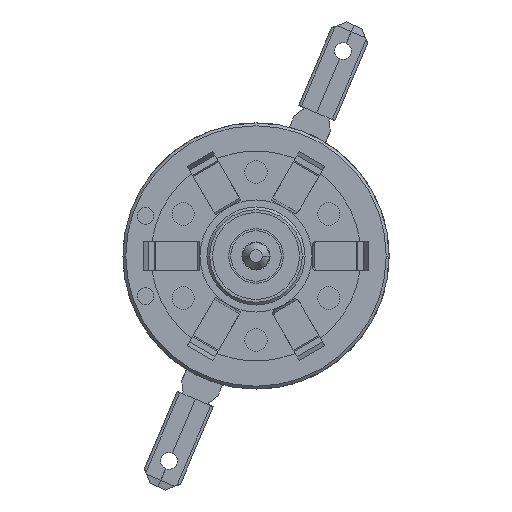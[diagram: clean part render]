
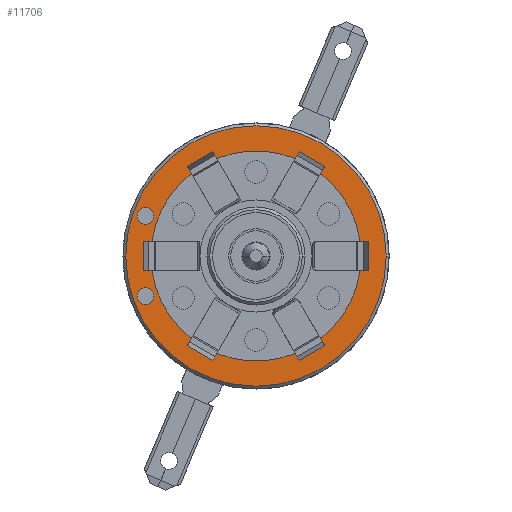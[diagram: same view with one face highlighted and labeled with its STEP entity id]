
A CAD part, left-side view. The second image highlights one B-rep face of the part: STEP entity #11706.
In plain terms, the highlighted planar face has unit normal (-1, 0, 0).
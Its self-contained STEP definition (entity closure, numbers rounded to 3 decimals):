
#2969=CARTESIAN_POINT('',(-1.4,0.,0.));
#2970=DIRECTION('',(-1.,0.,0.));
#2971=DIRECTION('',(0.,-1.,0.));
#2972=AXIS2_PLACEMENT_3D('',#2969,#2970,#2971);
#2977=CARTESIAN_POINT('',(-1.4,0.,0.));
#2978=DIRECTION('',(-1.,0.,0.));
#2979=DIRECTION('',(0.,1.,0.));
#2980=AXIS2_PLACEMENT_3D('',#2977,#2978,#2979);
#2985=CARTESIAN_POINT('',(-1.4,7.89,-2.87));
#2986=DIRECTION('',(1.,0.,0.));
#2987=DIRECTION('',(0.,1.,0.));
#2988=AXIS2_PLACEMENT_3D('',#2985,#2986,#2987);
#2993=CARTESIAN_POINT('',(-1.4,7.89,-2.87));
#2994=DIRECTION('',(1.,0.,0.));
#2995=DIRECTION('',(0.,-1.,0.));
#2996=AXIS2_PLACEMENT_3D('',#2993,#2994,#2995);
#3001=CARTESIAN_POINT('',(-1.4,7.89,2.87));
#3002=DIRECTION('',(1.,0.,0.));
#3003=DIRECTION('',(0.,1.,0.));
#3004=AXIS2_PLACEMENT_3D('',#3001,#3002,#3003);
#3009=CARTESIAN_POINT('',(-1.4,7.89,2.87));
#3010=DIRECTION('',(1.,0.,0.));
#3011=DIRECTION('',(0.,-1.,0.));
#3012=AXIS2_PLACEMENT_3D('',#3009,#3010,#3011);
#3017=DIRECTION('',(0.,-0.5,0.866));
#3018=VECTOR('',#3017,0.574);
#3019=CARTESIAN_POINT('',(-1.4,-4.622,5.906));
#3020=LINE('',#3019,#3018);
#3024=DIRECTION('',(0.,0.866,0.5));
#3025=VECTOR('',#3024,2.1);
#3026=CARTESIAN_POINT('',(-1.4,-4.909,6.403));
#3027=LINE('',#3026,#3025);
#3031=DIRECTION('',(0.,-0.5,0.866));
#3032=VECTOR('',#3031,0.574);
#3033=CARTESIAN_POINT('',(-1.4,-2.804,6.956));
#3034=LINE('',#3033,#3032);
#3038=DIRECTION('',(0.,0.5,0.866));
#3039=VECTOR('',#3038,0.574);
#3040=CARTESIAN_POINT('',(-1.4,2.804,6.956));
#3041=LINE('',#3040,#3039);
#3045=DIRECTION('',(0.,0.866,-0.5));
#3046=VECTOR('',#3045,2.1);
#3047=CARTESIAN_POINT('',(-1.4,3.091,7.453));
#3048=LINE('',#3047,#3046);
#3052=DIRECTION('',(0.,0.5,0.866));
#3053=VECTOR('',#3052,0.574);
#3054=CARTESIAN_POINT('',(-1.4,4.622,5.906));
#3055=LINE('',#3054,#3053);
#3059=DIRECTION('',(0.,1.,0.));
#3060=VECTOR('',#3059,0.574);
#3061=CARTESIAN_POINT('',(-1.4,7.426,1.05));
#3062=LINE('',#3061,#3060);
#3066=DIRECTION('',(0.,0.,-1.));
#3067=VECTOR('',#3066,2.1);
#3068=CARTESIAN_POINT('',(-1.4,8.,1.05));
#3069=LINE('',#3068,#3067);
#3073=DIRECTION('',(0.,1.,0.));
#3074=VECTOR('',#3073,0.574);
#3075=CARTESIAN_POINT('',(-1.4,7.426,-1.05));
#3076=LINE('',#3075,#3074);
#3080=DIRECTION('',(0.,-0.5,0.866));
#3081=VECTOR('',#3080,0.574);
#3082=CARTESIAN_POINT('',(-1.4,4.909,-6.403));
#3083=LINE('',#3082,#3081);
#3087=DIRECTION('',(0.,-0.866,-0.5));
#3088=VECTOR('',#3087,2.1);
#3089=CARTESIAN_POINT('',(-1.4,4.909,-6.403));
#3090=LINE('',#3089,#3088);
#3094=DIRECTION('',(0.,-0.5,0.866));
#3095=VECTOR('',#3094,0.574);
#3096=CARTESIAN_POINT('',(-1.4,3.091,-7.453));
#3097=LINE('',#3096,#3095);
#3101=DIRECTION('',(0.,0.5,0.866));
#3102=VECTOR('',#3101,0.574);
#3103=CARTESIAN_POINT('',(-1.4,-3.091,-7.453));
#3104=LINE('',#3103,#3102);
#3108=DIRECTION('',(0.,-0.866,0.5));
#3109=VECTOR('',#3108,2.1);
#3110=CARTESIAN_POINT('',(-1.4,-3.091,-7.453));
#3111=LINE('',#3110,#3109);
#3115=DIRECTION('',(0.,0.5,0.866));
#3116=VECTOR('',#3115,0.574);
#3117=CARTESIAN_POINT('',(-1.4,-4.909,-6.403));
#3118=LINE('',#3117,#3116);
#3122=DIRECTION('',(0.,1.,0.));
#3123=VECTOR('',#3122,0.574);
#3124=CARTESIAN_POINT('',(-1.4,-8.,-1.05));
#3125=LINE('',#3124,#3123);
#3129=DIRECTION('',(0.,0.,1.));
#3130=VECTOR('',#3129,2.1);
#3131=CARTESIAN_POINT('',(-1.4,-8.,-1.05));
#3132=LINE('',#3131,#3130);
#3136=DIRECTION('',(0.,1.,0.));
#3137=VECTOR('',#3136,0.574);
#3138=CARTESIAN_POINT('',(-1.4,-8.,1.05));
#3139=LINE('',#3138,#3137);
#3597=CARTESIAN_POINT('',(-1.4,0.,0.));
#3598=DIRECTION('',(1.,0.,0.));
#3599=DIRECTION('',(0.,-0.99,-0.14));
#3600=AXIS2_PLACEMENT_3D('',#3597,#3598,#3599);
#3849=CARTESIAN_POINT('',(-1.4,0.,0.));
#3850=DIRECTION('',(1.,0.,0.));
#3851=DIRECTION('',(0.,-0.374,-0.927));
#3852=AXIS2_PLACEMENT_3D('',#3849,#3850,#3851);
#4075=CARTESIAN_POINT('',(-1.4,0.,0.));
#4076=DIRECTION('',(1.,0.,0.));
#4077=DIRECTION('',(0.,0.616,-0.787));
#4078=AXIS2_PLACEMENT_3D('',#4075,#4076,#4077);
#4301=CARTESIAN_POINT('',(-1.4,0.,0.));
#4302=DIRECTION('',(1.,0.,0.));
#4303=DIRECTION('',(0.,0.99,0.14));
#4304=AXIS2_PLACEMENT_3D('',#4301,#4302,#4303);
#4527=CARTESIAN_POINT('',(-1.4,0.,0.));
#4528=DIRECTION('',(1.,0.,0.));
#4529=DIRECTION('',(0.,0.374,0.927));
#4530=AXIS2_PLACEMENT_3D('',#4527,#4528,#4529);
#4715=CARTESIAN_POINT('',(-1.4,0.,0.));
#4716=DIRECTION('',(1.,0.,0.));
#4717=DIRECTION('',(0.,-0.616,0.787));
#4718=AXIS2_PLACEMENT_3D('',#4715,#4716,#4717);
#9086=CARTESIAN_POINT('',(-1.4,-9.3,0.));
#9087=CARTESIAN_POINT('',(-1.4,9.3,0.));
#9088=VERTEX_POINT('',#9086);
#9089=VERTEX_POINT('',#9087);
#9102=CARTESIAN_POINT('',(-1.4,8.49,-2.87));
#9103=CARTESIAN_POINT('',(-1.4,7.29,-2.87));
#9104=VERTEX_POINT('',#9102);
#9105=VERTEX_POINT('',#9103);
#9106=CARTESIAN_POINT('',(-1.4,-8.,-1.05));
#9107=CARTESIAN_POINT('',(-1.4,-7.426,-1.05));
#9108=VERTEX_POINT('',#9106);
#9109=VERTEX_POINT('',#9107);
#9110=CARTESIAN_POINT('',(-1.4,-8.,1.05));
#9111=CARTESIAN_POINT('',(-1.4,-7.426,1.05));
#9112=VERTEX_POINT('',#9110);
#9113=VERTEX_POINT('',#9111);
#9198=CARTESIAN_POINT('',(-1.4,-3.091,-7.453));
#9199=CARTESIAN_POINT('',(-1.4,-2.804,-6.956));
#9200=VERTEX_POINT('',#9198);
#9201=VERTEX_POINT('',#9199);
#9202=CARTESIAN_POINT('',(-1.4,-4.909,-6.403));
#9203=CARTESIAN_POINT('',(-1.4,-4.622,-5.906));
#9204=VERTEX_POINT('',#9202);
#9205=VERTEX_POINT('',#9203);
#9214=CARTESIAN_POINT('',(-1.4,4.909,-6.403));
#9215=CARTESIAN_POINT('',(-1.4,4.622,-5.906));
#9216=VERTEX_POINT('',#9214);
#9217=VERTEX_POINT('',#9215);
#9218=CARTESIAN_POINT('',(-1.4,3.091,-7.453));
#9219=CARTESIAN_POINT('',(-1.4,2.804,-6.956));
#9220=VERTEX_POINT('',#9218);
#9221=VERTEX_POINT('',#9219);
#9276=CARTESIAN_POINT('',(-1.4,8.49,2.87));
#9277=CARTESIAN_POINT('',(-1.4,7.29,2.87));
#9278=VERTEX_POINT('',#9276);
#9279=VERTEX_POINT('',#9277);
#9360=CARTESIAN_POINT('',(-1.4,7.426,1.05));
#9361=CARTESIAN_POINT('',(-1.4,8.,1.05));
#9362=VERTEX_POINT('',#9360);
#9363=VERTEX_POINT('',#9361);
#9364=CARTESIAN_POINT('',(-1.4,7.426,-1.05));
#9365=CARTESIAN_POINT('',(-1.4,8.,-1.05));
#9366=VERTEX_POINT('',#9364);
#9367=VERTEX_POINT('',#9365);
#9388=CARTESIAN_POINT('',(-1.4,2.804,6.956));
#9389=CARTESIAN_POINT('',(-1.4,3.091,7.453));
#9390=VERTEX_POINT('',#9388);
#9391=VERTEX_POINT('',#9389);
#9392=CARTESIAN_POINT('',(-1.4,4.622,5.906));
#9393=CARTESIAN_POINT('',(-1.4,4.909,6.403));
#9394=VERTEX_POINT('',#9392);
#9395=VERTEX_POINT('',#9393);
#9412=CARTESIAN_POINT('',(-1.4,-4.622,5.906));
#9413=CARTESIAN_POINT('',(-1.4,-4.909,6.403));
#9414=VERTEX_POINT('',#9412);
#9415=VERTEX_POINT('',#9413);
#9416=CARTESIAN_POINT('',(-1.4,-2.804,6.956));
#9417=CARTESIAN_POINT('',(-1.4,-3.091,7.453));
#9418=VERTEX_POINT('',#9416);
#9419=VERTEX_POINT('',#9417);
#11636=CARTESIAN_POINT('',(-1.4,0.,0.));
#11637=DIRECTION('',(1.,0.,0.));
#11638=DIRECTION('',(0.,-1.,0.));
#11639=AXIS2_PLACEMENT_3D('',#11636,#11637,#11638);
#11640=PLANE('',#11639);
#11642=ORIENTED_EDGE('',*,*,#11641,.F.);
#11644=ORIENTED_EDGE('',*,*,#11643,.F.);
#11645=EDGE_LOOP('',(#11642,#11644));
#11646=FACE_OUTER_BOUND('',#11645,.F.);
#11648=ORIENTED_EDGE('',*,*,#11647,.F.);
#11650=ORIENTED_EDGE('',*,*,#11649,.F.);
#11651=EDGE_LOOP('',(#11648,#11650));
#11652=FACE_BOUND('',#11651,.F.);
#11654=ORIENTED_EDGE('',*,*,#11653,.F.);
#11656=ORIENTED_EDGE('',*,*,#11655,.F.);
#11657=EDGE_LOOP('',(#11654,#11656));
#11658=FACE_BOUND('',#11657,.F.);
#11660=ORIENTED_EDGE('',*,*,#11659,.T.);
#11662=ORIENTED_EDGE('',*,*,#11661,.T.);
#11664=ORIENTED_EDGE('',*,*,#11663,.F.);
#11666=ORIENTED_EDGE('',*,*,#11665,.F.);
#11668=ORIENTED_EDGE('',*,*,#11667,.T.);
#11670=ORIENTED_EDGE('',*,*,#11669,.T.);
#11672=ORIENTED_EDGE('',*,*,#11671,.F.);
#11674=ORIENTED_EDGE('',*,*,#11673,.F.);
#11676=ORIENTED_EDGE('',*,*,#11675,.T.);
#11678=ORIENTED_EDGE('',*,*,#11677,.T.);
#11680=ORIENTED_EDGE('',*,*,#11679,.F.);
#11682=ORIENTED_EDGE('',*,*,#11681,.F.);
#11684=ORIENTED_EDGE('',*,*,#11683,.F.);
#11686=ORIENTED_EDGE('',*,*,#11685,.T.);
#11688=ORIENTED_EDGE('',*,*,#11687,.T.);
#11690=ORIENTED_EDGE('',*,*,#11689,.F.);
#11692=ORIENTED_EDGE('',*,*,#11691,.F.);
#11694=ORIENTED_EDGE('',*,*,#11693,.T.);
#11696=ORIENTED_EDGE('',*,*,#11695,.T.);
#11698=ORIENTED_EDGE('',*,*,#11697,.F.);
#11699=ORIENTED_EDGE('',*,*,#11555,.F.);
#11700=ORIENTED_EDGE('',*,*,#11623,.T.);
#11701=ORIENTED_EDGE('',*,*,#11503,.T.);
#11703=ORIENTED_EDGE('',*,*,#11702,.F.);
#11704=EDGE_LOOP('',(#11660,#11662,#11664,#11666,#11668,#11670,#11672,#11674,
#11676,#11678,#11680,#11682,#11684,#11686,#11688,#11690,#11692,#11694,#11696,
#11698,#11699,#11700,#11701,#11703));
#11705=FACE_BOUND('',#11704,.F.);
#11706=ADVANCED_FACE('',(#11646,#11652,#11658,#11705),#11640,.F.);
#2973=CIRCLE('',#2972,9.3);
#2981=CIRCLE('',#2980,9.3);
#2989=CIRCLE('',#2988,0.6);
#2997=CIRCLE('',#2996,0.6);
#3005=CIRCLE('',#3004,0.6);
#3013=CIRCLE('',#3012,0.6);
#3601=CIRCLE('',#3600,7.5);
#3853=CIRCLE('',#3852,7.5);
#4079=CIRCLE('',#4078,7.5);
#4305=CIRCLE('',#4304,7.5);
#4531=CIRCLE('',#4530,7.5);
#4719=CIRCLE('',#4718,7.5);
#11503=EDGE_CURVE('',#9112,#9113,#3139,.T.);
#11555=EDGE_CURVE('',#9108,#9109,#3125,.T.);
#11623=EDGE_CURVE('',#9108,#9112,#3132,.T.);
#11641=EDGE_CURVE('',#9088,#9089,#2973,.T.);
#11643=EDGE_CURVE('',#9089,#9088,#2981,.T.);
#11647=EDGE_CURVE('',#9104,#9105,#2989,.T.);
#11649=EDGE_CURVE('',#9105,#9104,#2997,.T.);
#11653=EDGE_CURVE('',#9278,#9279,#3005,.T.);
#11655=EDGE_CURVE('',#9279,#9278,#3013,.T.);
#11659=EDGE_CURVE('',#9414,#9415,#3020,.T.);
#11661=EDGE_CURVE('',#9415,#9419,#3027,.T.);
#11663=EDGE_CURVE('',#9418,#9419,#3034,.T.);
#11665=EDGE_CURVE('',#9390,#9418,#4531,.T.);
#11667=EDGE_CURVE('',#9390,#9391,#3041,.T.);
#11669=EDGE_CURVE('',#9391,#9395,#3048,.T.);
#11671=EDGE_CURVE('',#9394,#9395,#3055,.T.);
#11673=EDGE_CURVE('',#9362,#9394,#4305,.T.);
#11675=EDGE_CURVE('',#9362,#9363,#3062,.T.);
#11677=EDGE_CURVE('',#9363,#9367,#3069,.T.);
#11679=EDGE_CURVE('',#9366,#9367,#3076,.T.);
#11681=EDGE_CURVE('',#9217,#9366,#4079,.T.);
#11683=EDGE_CURVE('',#9216,#9217,#3083,.T.);
#11685=EDGE_CURVE('',#9216,#9220,#3090,.T.);
#11687=EDGE_CURVE('',#9220,#9221,#3097,.T.);
#11689=EDGE_CURVE('',#9201,#9221,#3853,.T.);
#11691=EDGE_CURVE('',#9200,#9201,#3104,.T.);
#11693=EDGE_CURVE('',#9200,#9204,#3111,.T.);
#11695=EDGE_CURVE('',#9204,#9205,#3118,.T.);
#11697=EDGE_CURVE('',#9109,#9205,#3601,.T.);
#11702=EDGE_CURVE('',#9414,#9113,#4719,.T.);
